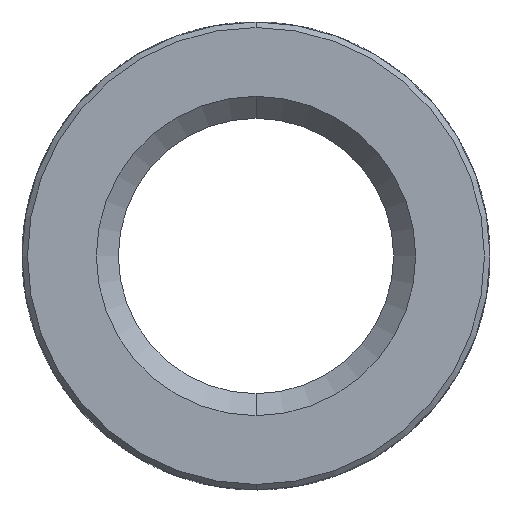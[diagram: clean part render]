
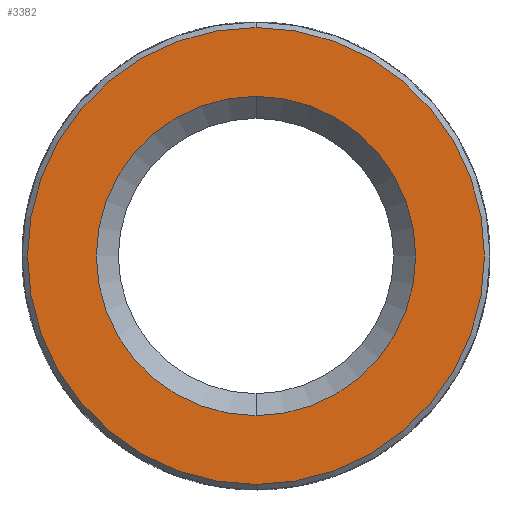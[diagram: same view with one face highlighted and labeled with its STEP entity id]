
A CAD part, front view. The second image highlights one B-rep face of the part: STEP entity #3382.
In plain terms, the highlighted planar face has unit normal (0, -1, 0).
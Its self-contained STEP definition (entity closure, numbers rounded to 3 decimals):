
#2 = CARTESIAN_POINT ( 'NONE',  ( 0., -5.5, 0. ) ) ;
#182 = ORIENTED_EDGE ( 'NONE', *, *, #3768, .T. ) ;
#247 = ORIENTED_EDGE ( 'NONE', *, *, #3759, .T. ) ;
#329 = VERTEX_POINT ( 'NONE', #1431 ) ;
#346 = DIRECTION ( 'NONE',  ( 0., 1., 0. ) ) ;
#431 = CARTESIAN_POINT ( 'NONE',  ( 0., -5.5, 4.25 ) ) ;
#434 = CIRCLE ( 'NONE', #1092, 4.15 ) ;
#469 = PLANE ( 'NONE',  #1366 ) ;
#752 = DIRECTION ( 'NONE',  ( 0., 0., -1. ) ) ;
#845 = FACE_OUTER_BOUND ( 'NONE', #1426, .T. ) ;
#1092 = AXIS2_PLACEMENT_3D ( 'NONE', #3465, #3157, #1689 ) ;
#1142 = ORIENTED_EDGE ( 'NONE', *, *, #2823, .T. ) ;
#1145 = DIRECTION ( 'NONE',  ( 0., -1., 0. ) ) ;
#1158 = DIRECTION ( 'NONE',  ( 0., 0., -1. ) ) ;
#1217 = CARTESIAN_POINT ( 'NONE',  ( 0., -5.5, 0. ) ) ;
#1231 = AXIS2_PLACEMENT_3D ( 'NONE', #2024, #1145, #3745 ) ;
#1361 = CARTESIAN_POINT ( 'NONE',  ( 0., -5.5, -2.9 ) ) ;
#1366 = AXIS2_PLACEMENT_3D ( 'NONE', #431, #1876, #752 ) ;
#1389 = FACE_BOUND ( 'NONE', #2140, .T. ) ;
#1426 = EDGE_LOOP ( 'NONE', ( #182, #247 ) ) ;
#1431 = CARTESIAN_POINT ( 'NONE',  ( 0., -5.5, 2.9 ) ) ;
#1688 = CARTESIAN_POINT ( 'NONE',  ( 0., -5.5, 4.15 ) ) ;
#1689 = DIRECTION ( 'NONE',  ( 0., 0., -1. ) ) ;
#1876 = DIRECTION ( 'NONE',  ( 0., -1., 0. ) ) ;
#1979 = AXIS2_PLACEMENT_3D ( 'NONE', #1217, #3565, #2393 ) ;
#2024 = CARTESIAN_POINT ( 'NONE',  ( 0., -5.5, 0. ) ) ;
#2140 = EDGE_LOOP ( 'NONE', ( #1142, #2375 ) ) ;
#2375 = ORIENTED_EDGE ( 'NONE', *, *, #2711, .T. ) ;
#2393 = DIRECTION ( 'NONE',  ( 0., 0., -1. ) ) ;
#2524 = CIRCLE ( 'NONE', #1231, 4.15 ) ;
#2571 = VERTEX_POINT ( 'NONE', #1688 ) ;
#2656 = CARTESIAN_POINT ( 'NONE',  ( 0., -5.5, -4.15 ) ) ;
#2711 = EDGE_CURVE ( 'NONE', #329, #3689, #3570, .T. ) ;
#2740 = VERTEX_POINT ( 'NONE', #2656 ) ;
#2823 = EDGE_CURVE ( 'NONE', #3689, #329, #2907, .T. ) ;
#2869 = AXIS2_PLACEMENT_3D ( 'NONE', #2, #346, #1158 ) ;
#2907 = CIRCLE ( 'NONE', #1979, 2.9 ) ;
#3157 = DIRECTION ( 'NONE',  ( 0., -1., 0. ) ) ;
#3382 = ADVANCED_FACE ( 'NONE', ( #845, #1389 ), #469, .T. ) ;
#3465 = CARTESIAN_POINT ( 'NONE',  ( 0., -5.5, 0. ) ) ;
#3565 = DIRECTION ( 'NONE',  ( 0., 1., 0. ) ) ;
#3570 = CIRCLE ( 'NONE', #2869, 2.9 ) ;
#3689 = VERTEX_POINT ( 'NONE', #1361 ) ;
#3745 = DIRECTION ( 'NONE',  ( 0., 0., -1. ) ) ;
#3759 = EDGE_CURVE ( 'NONE', #2740, #2571, #434, .T. ) ;
#3768 = EDGE_CURVE ( 'NONE', #2571, #2740, #2524, .T. ) ;
